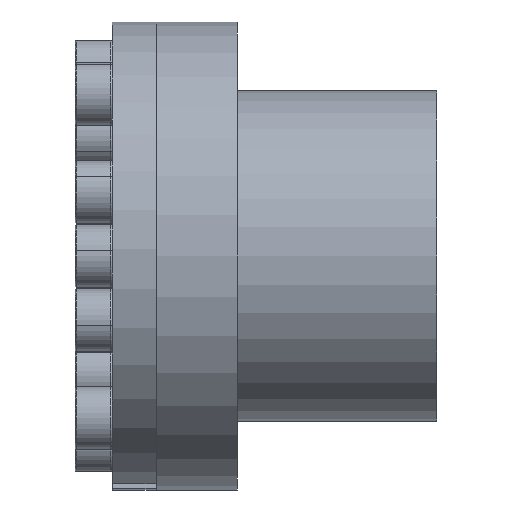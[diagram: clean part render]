
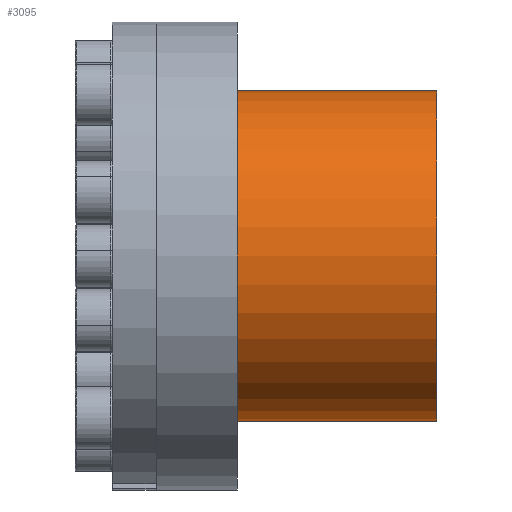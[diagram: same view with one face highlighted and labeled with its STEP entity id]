
A CAD part, front view. The second image highlights one B-rep face of the part: STEP entity #3095.
In plain terms, the highlighted cylindrical face has radius 26.5 mm (diameter 53 mm), a partial arc.
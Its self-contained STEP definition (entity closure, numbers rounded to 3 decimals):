
#4 = FACE_OUTER_BOUND ( 'NONE', #6212, .T. ) ;
#301 = CARTESIAN_POINT ( 'NONE',  ( -6., 0., -26.5 ) ) ;
#648 = EDGE_CURVE ( 'NONE', #1205, #2697, #3327, .T. ) ;
#665 = DIRECTION ( 'NONE',  ( -1., 0., 0. ) ) ;
#1089 = ORIENTED_EDGE ( 'NONE', *, *, #648, .T. ) ;
#1119 = CIRCLE ( 'NONE', #2883, 26.5 ) ;
#1205 = VERTEX_POINT ( 'NONE', #2821 ) ;
#1391 = CARTESIAN_POINT ( 'NONE',  ( 26., 0., -26.5 ) ) ;
#1736 = VECTOR ( 'NONE', #3115, 1000. ) ;
#1954 = CARTESIAN_POINT ( 'NONE',  ( -26., 0., 26.5 ) ) ;
#2152 = AXIS2_PLACEMENT_3D ( 'NONE', #2253, #3409, #2818 ) ;
#2179 = EDGE_CURVE ( 'NONE', #5147, #1205, #4065, .T. ) ;
#2226 = CARTESIAN_POINT ( 'NONE',  ( -6., 0., 0. ) ) ;
#2253 = CARTESIAN_POINT ( 'NONE',  ( -26., 0., 0. ) ) ;
#2697 = VERTEX_POINT ( 'NONE', #7227 ) ;
#2818 = DIRECTION ( 'NONE',  ( 0., 0., 1. ) ) ;
#2821 = CARTESIAN_POINT ( 'NONE',  ( 26., 0., 26.5 ) ) ;
#2823 = DIRECTION ( 'NONE',  ( 0., 0., 1. ) ) ;
#2883 = AXIS2_PLACEMENT_3D ( 'NONE', #2226, #6428, #2823 ) ;
#2965 = VECTOR ( 'NONE', #5073, 1000. ) ;
#3095 = ADVANCED_FACE ( 'NONE', ( #4 ), #7252, .T. ) ;
#3115 = DIRECTION ( 'NONE',  ( -1., 0., 0. ) ) ;
#3288 = CARTESIAN_POINT ( 'NONE',  ( -26., 0., -26.5 ) ) ;
#3327 = LINE ( 'NONE', #1954, #1736 ) ;
#3358 = ORIENTED_EDGE ( 'NONE', *, *, #2179, .T. ) ;
#3409 = DIRECTION ( 'NONE',  ( -1., 0., 0. ) ) ;
#4065 = CIRCLE ( 'NONE', #7704, 26.5 ) ;
#4252 = CARTESIAN_POINT ( 'NONE',  ( 26., 0., 0. ) ) ;
#4873 = DIRECTION ( 'NONE',  ( 0., 0., 1. ) ) ;
#5073 = DIRECTION ( 'NONE',  ( -1., 0., 0. ) ) ;
#5147 = VERTEX_POINT ( 'NONE', #1391 ) ;
#5263 = VERTEX_POINT ( 'NONE', #301 ) ;
#5343 = EDGE_CURVE ( 'NONE', #5263, #2697, #1119, .T. ) ;
#5955 = EDGE_CURVE ( 'NONE', #5147, #5263, #6175, .T. ) ;
#6175 = LINE ( 'NONE', #3288, #2965 ) ;
#6212 = EDGE_LOOP ( 'NONE', ( #7225, #3358, #1089, #7242 ) ) ;
#6428 = DIRECTION ( 'NONE',  ( -1., 0., 0. ) ) ;
#7225 = ORIENTED_EDGE ( 'NONE', *, *, #5955, .F. ) ;
#7227 = CARTESIAN_POINT ( 'NONE',  ( -6., 0., 26.5 ) ) ;
#7242 = ORIENTED_EDGE ( 'NONE', *, *, #5343, .F. ) ;
#7252 = CYLINDRICAL_SURFACE ( 'NONE', #2152, 26.5 ) ;
#7704 = AXIS2_PLACEMENT_3D ( 'NONE', #4252, #665, #4873 ) ;
